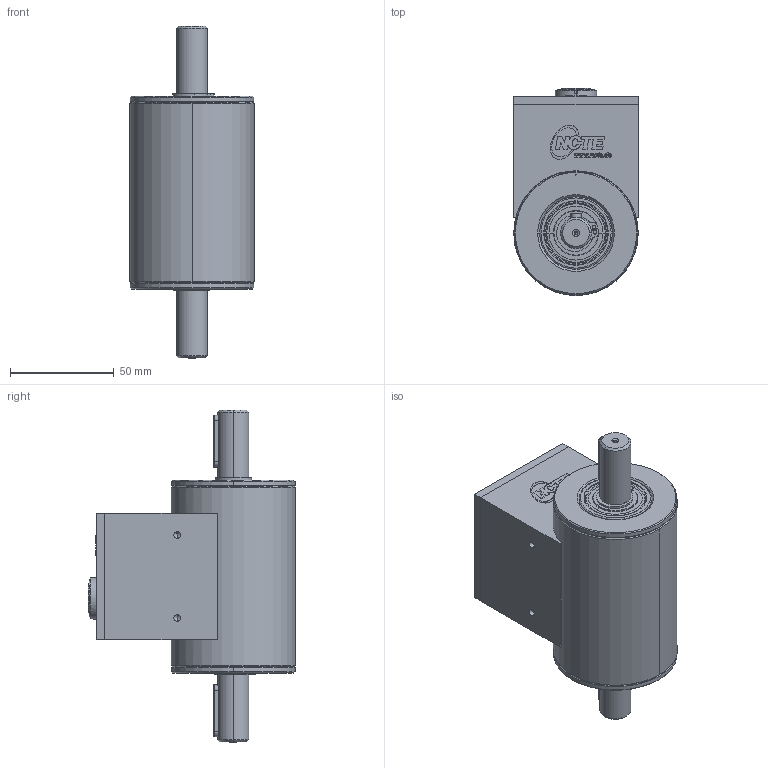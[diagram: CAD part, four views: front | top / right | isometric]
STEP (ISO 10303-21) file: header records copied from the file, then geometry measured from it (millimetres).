
FILE_DESCRIPTION (( 'STEP AP214' ), '1' );
FILE_NAME ('400007-ATS010_Sensor_Mb_50-100Nm_Rund_ohne_WS_IP50.STEP', '2016-11-28T15:42:03', ( '' ), ( '' ), 'SwSTEP 2.0', 'SolidWorks 2016', '' );
FILE_SCHEMA (( 'AUTOMOTIVE_DESIGN' ));
Length unit declared in the file: millimetre
Products named in the file (27): Senkschraube mit Innensechskant DIN 7991_DIN 7991 - M4 x 10 --- 10S; 999999-ATN172_Rillenkugellager_6202-2Z_Standard_3; 999999-ATE072_Folientaster beleuchtet_Standard; 400007-ATM001_Welle15mm_Mb_50-100_Nm; DIN 7991 - M3 x 10 --- 10S_DIN 7991 - M3 x 10 --- 10S; 400007-ATS010_Sensor_Mb_50-100Nm_Rund_ohne_WS_IP50; 999999-ATN172_Rillenkugellager_6202-2Z_Standard_7; 999999-ATN172_Rillenkugellager_6202-2Z_Standard_8; 999999-ATN172_Rillenkugellager_6202-2Z_Standard_2; 999999-ATN172_Rillenkugellager_6202-2Z_Standard_6; 999999-ATN172_Rillenkugellager_6202-2Z_Standard_10; 999999-ATN172_Rillenkugellager_6202-2Z_Standard_11; Passscheibe DIN 988_DIN 988-25x35x0.5; 400007-ATM009_Rohrgehaeuse_Mb_50-100Nm; 999999-ATN172_Rillenkugellager_6202-2Z_Standard_5; 999999-ATE042_Buchse-09-0132-90-12_12Pol_Standard; 400007-ATM012_Lagerdeckel_Mb-50-100Nm; 999999-ATN172_Rillenkugellager_6202-2Z_Standard_12; Passfeder_Parallel key A5 x 5 x 25 DIN 6885; Seegering DIN 471_Circlip DIN 471 - 15 x 1; 999999-ATM001_Tellerfeder_k_vorgespannt34,6x22,4x0,5_Standard; 999999-ATN172_Rillenkugellager_6202-2Z_Standard_9; 999999-ATN172_Rillenkugellager_6202-2Z_Standard; 400007-ATM015_Elektronikgehaeuse_Mb_50-100Nm; 400007-ATM018_Deckel_Elektronikgehäuse_Mb_50-100Nm; 999999-ATN172_Rillenkugellager_6202-2Z_Standard_4
Assembly tree (35 placements, depth 3):
  400007-ATS010_Sensor_Mb_50-100Nm_Rund_ohne_WS_IP50
    400007-ATM001_Welle15mm_Mb_50-100_Nm
    400007-ATM009_Rohrgehaeuse_Mb_50-100Nm
    400007-ATM012_Lagerdeckel_Mb-50-100Nm  x2
    400007-ATM015_Elektronikgehaeuse_Mb_50-100Nm
    Senkschraube mit Innensechskant DIN 7991_DIN 7991 - M4 x 10 --- 10S  x2
    DIN 7991 - M3 x 10 --- 10S_DIN 7991 - M3 x 10 --- 10S  x4
    999999-ATE042_Buchse-09-0132-90-12_12Pol_Standard
    999999-ATE072_Folientaster beleuchtet_Standard
    999999-ATM001_Tellerfeder_k_vorgespannt34,6x22,4x0,5_Standard
    Passscheibe DIN 988_DIN 988-25x35x0.5  x2
    Seegering DIN 471_Circlip DIN 471 - 15 x 1  x2
    400007-ATM018_Deckel_Elektronikgehäuse_Mb_50-100Nm
    999999-ATN172_Rillenkugellager_6202-2Z_Standard  x2
      999999-ATN172_Rillenkugellager_6202-2Z_Standard_4
      999999-ATN172_Rillenkugellager_6202-2Z_Standard_9
      999999-ATN172_Rillenkugellager_6202-2Z_Standard_12
      999999-ATN172_Rillenkugellager_6202-2Z_Standard_11
      999999-ATN172_Rillenkugellager_6202-2Z_Standard_6
      999999-ATN172_Rillenkugellager_6202-2Z_Standard_5
      999999-ATN172_Rillenkugellager_6202-2Z_Standard_8
      999999-ATN172_Rillenkugellager_6202-2Z_Standard_10
      999999-ATN172_Rillenkugellager_6202-2Z_Standard_2
      999999-ATN172_Rillenkugellager_6202-2Z_Standard
      999999-ATN172_Rillenkugellager_6202-2Z_Standard_7
      999999-ATN172_Rillenkugellager_6202-2Z_Standard_3
    Passfeder_Parallel key A5 x 5 x 25 DIN 6885  x2
Bounding box: 60 x 99.8 x 160 mm (x, y, z)
Surface area: 115721.7 mm2 (no closed solid volume)
Topology: 0 solids, 45 shells, 1650 faces, 3929 edges, 2376 vertices
Faces by surface type: cone 550, cylinder 514, plane 377, bspline 103, torus 74, sphere 32
Entity records: 34164 total; most frequent: CARTESIAN_POINT 9296, DIRECTION 5053, ORIENTED_EDGE 4858, EDGE_CURVE 2429, AXIS2_PLACEMENT_3D 1915, VERTEX_POINT 1533, LINE 1223, VECTOR 1223
